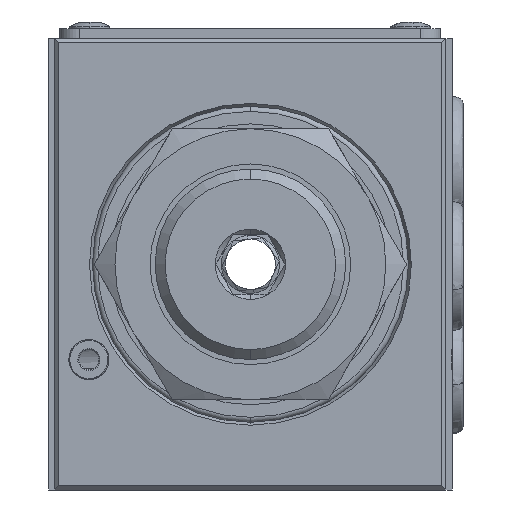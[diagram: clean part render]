
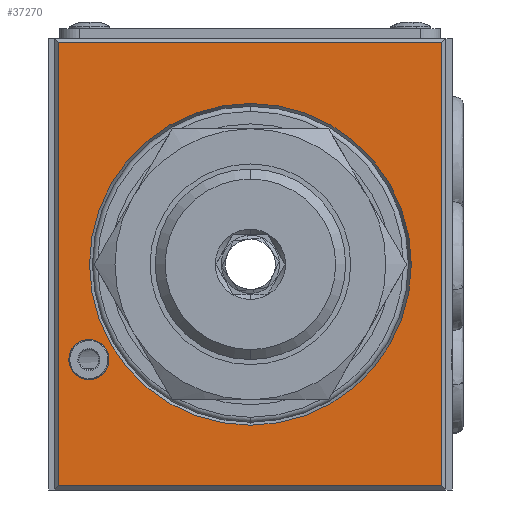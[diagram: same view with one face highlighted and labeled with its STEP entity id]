
A CAD part, left-side view. The second image highlights one B-rep face of the part: STEP entity #37270.
In plain terms, the highlighted planar face has unit normal (-1, 0, 0).
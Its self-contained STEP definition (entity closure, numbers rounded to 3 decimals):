
#1695 = FACE_OUTER_BOUND ( 'NONE', #3405, .T. ) ;
#3405 = EDGE_LOOP ( 'NONE', ( #59661, #13564, #18847, #29988 ) ) ;
#4898 = ORIENTED_EDGE ( 'NONE', *, *, #35355, .F. ) ;
#6150 = CARTESIAN_POINT ( 'NONE',  ( -44.8, 19.1, 0. ) ) ;
#7206 = CARTESIAN_POINT ( 'NONE',  ( -44.8, 19.5, 44.6 ) ) ;
#7307 = DIRECTION ( 'NONE',  ( 0., 0., -1. ) ) ;
#8147 = EDGE_CURVE ( 'NONE', #49851, #54822, #43608, .T. ) ;
#8368 = EDGE_LOOP ( 'NONE', ( #18117, #59535 ) ) ;
#8954 = EDGE_CURVE ( 'NONE', #56574, #12324, #16821, .T. ) ;
#8971 = EDGE_CURVE ( 'NONE', #14867, #47838, #47013, .T. ) ;
#9431 = DIRECTION ( 'NONE',  ( -1., 0., 0. ) ) ;
#10064 = VECTOR ( 'NONE', #39771, 1000. ) ;
#10367 = EDGE_CURVE ( 'NONE', #33032, #56574, #15199, .T. ) ;
#10628 = VECTOR ( 'NONE', #34604, 1000. ) ;
#10881 = CARTESIAN_POINT ( 'NONE',  ( -44.8, 0., 22.5 ) ) ;
#11564 = DIRECTION ( 'NONE',  ( 1., 0., 0. ) ) ;
#12080 = DIRECTION ( 'NONE',  ( 0., 0., -1. ) ) ;
#12324 = VERTEX_POINT ( 'NONE', #37218 ) ;
#13358 = DIRECTION ( 'NONE',  ( 1., 0., 0. ) ) ;
#13564 = ORIENTED_EDGE ( 'NONE', *, *, #46992, .T. ) ;
#14867 = VERTEX_POINT ( 'NONE', #17762 ) ;
#15199 = LINE ( 'NONE', #7206, #10064 ) ;
#15426 = DIRECTION ( 'NONE',  ( 0., 0., -1. ) ) ;
#16821 = LINE ( 'NONE', #6150, #57812 ) ;
#16881 = AXIS2_PLACEMENT_3D ( 'NONE', #29663, #11564, #7307 ) ;
#17375 = CARTESIAN_POINT ( 'NONE',  ( -44.8, 16.1, 13. ) ) ;
#17762 = CARTESIAN_POINT ( 'NONE',  ( -44.8, 0., 38.539 ) ) ;
#17891 = CARTESIAN_POINT ( 'NONE',  ( -44.8, -19.1, 0.4 ) ) ;
#18001 = DIRECTION ( 'NONE',  ( 0., 0., -1. ) ) ;
#18117 = ORIENTED_EDGE ( 'NONE', *, *, #8971, .T. ) ;
#18847 = ORIENTED_EDGE ( 'NONE', *, *, #47280, .T. ) ;
#18954 = AXIS2_PLACEMENT_3D ( 'NONE', #17375, #49865, #45439 ) ;
#21115 = FACE_BOUND ( 'NONE', #8368, .T. ) ;
#23051 = CIRCLE ( 'NONE', #18954, 2. ) ;
#25351 = EDGE_CURVE ( 'NONE', #47838, #14867, #47946, .T. ) ;
#25380 = CARTESIAN_POINT ( 'NONE',  ( -44.8, 20.1, 0.4 ) ) ;
#28245 = AXIS2_PLACEMENT_3D ( 'NONE', #45457, #13358, #18001 ) ;
#29663 = CARTESIAN_POINT ( 'NONE',  ( -44.8, 0., 22.5 ) ) ;
#29988 = ORIENTED_EDGE ( 'NONE', *, *, #10367, .T. ) ;
#30326 = AXIS2_PLACEMENT_3D ( 'NONE', #36954, #9431, #42002 ) ;
#30422 = VERTEX_POINT ( 'NONE', #17891 ) ;
#31767 = CARTESIAN_POINT ( 'NONE',  ( -44.8, -19.1, 45. ) ) ;
#33032 = VERTEX_POINT ( 'NONE', #57269 ) ;
#34604 = DIRECTION ( 'NONE',  ( 0., -1., 0. ) ) ;
#35355 = EDGE_CURVE ( 'NONE', #54822, #49851, #23051, .T. ) ;
#35385 = CARTESIAN_POINT ( 'NONE',  ( -44.8, 0., 6.461 ) ) ;
#35499 = CARTESIAN_POINT ( 'NONE',  ( -44.8, 19.1, 44.6 ) ) ;
#36490 = AXIS2_PLACEMENT_3D ( 'NONE', #10881, #38225, #12080 ) ;
#36954 = CARTESIAN_POINT ( 'NONE',  ( -44.8, 16.1, 13. ) ) ;
#37007 = PLANE ( 'NONE',  #28245 ) ;
#37218 = CARTESIAN_POINT ( 'NONE',  ( -44.8, 19.1, 0.4 ) ) ;
#37270 = ADVANCED_FACE ( 'NONE', ( #48380, #21115, #1695 ), #37007, .F. ) ;
#38225 = DIRECTION ( 'NONE',  ( 1., 0., 0. ) ) ;
#38847 = EDGE_LOOP ( 'NONE', ( #42046, #4898 ) ) ;
#39771 = DIRECTION ( 'NONE',  ( 0., 1., 0. ) ) ;
#42002 = DIRECTION ( 'NONE',  ( 0., -1., 0. ) ) ;
#42046 = ORIENTED_EDGE ( 'NONE', *, *, #8147, .F. ) ;
#43608 = CIRCLE ( 'NONE', #30326, 2. ) ;
#44471 = CARTESIAN_POINT ( 'NONE',  ( -44.8, 18.1, 13. ) ) ;
#45439 = DIRECTION ( 'NONE',  ( 0., -1., 0. ) ) ;
#45457 = CARTESIAN_POINT ( 'NONE',  ( -44.8, 20.1, 45. ) ) ;
#45714 = LINE ( 'NONE', #31767, #59439 ) ;
#46216 = DIRECTION ( 'NONE',  ( 0., 0., 1. ) ) ;
#46992 = EDGE_CURVE ( 'NONE', #12324, #30422, #47293, .T. ) ;
#47013 = CIRCLE ( 'NONE', #16881, 16.039 ) ;
#47280 = EDGE_CURVE ( 'NONE', #30422, #33032, #45714, .T. ) ;
#47293 = LINE ( 'NONE', #25380, #10628 ) ;
#47838 = VERTEX_POINT ( 'NONE', #35385 ) ;
#47946 = CIRCLE ( 'NONE', #36490, 16.039 ) ;
#48380 = FACE_BOUND ( 'NONE', #38847, .T. ) ;
#49851 = VERTEX_POINT ( 'NONE', #56384 ) ;
#49865 = DIRECTION ( 'NONE',  ( -1., 0., 0. ) ) ;
#54822 = VERTEX_POINT ( 'NONE', #44471 ) ;
#56384 = CARTESIAN_POINT ( 'NONE',  ( -44.8, 14.1, 13. ) ) ;
#56574 = VERTEX_POINT ( 'NONE', #35499 ) ;
#57269 = CARTESIAN_POINT ( 'NONE',  ( -44.8, -19.1, 44.6 ) ) ;
#57812 = VECTOR ( 'NONE', #15426, 1000. ) ;
#59439 = VECTOR ( 'NONE', #46216, 1000. ) ;
#59535 = ORIENTED_EDGE ( 'NONE', *, *, #25351, .T. ) ;
#59661 = ORIENTED_EDGE ( 'NONE', *, *, #8954, .T. ) ;
